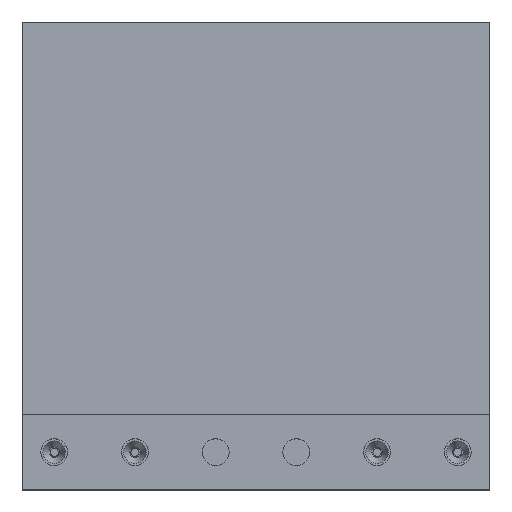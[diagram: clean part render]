
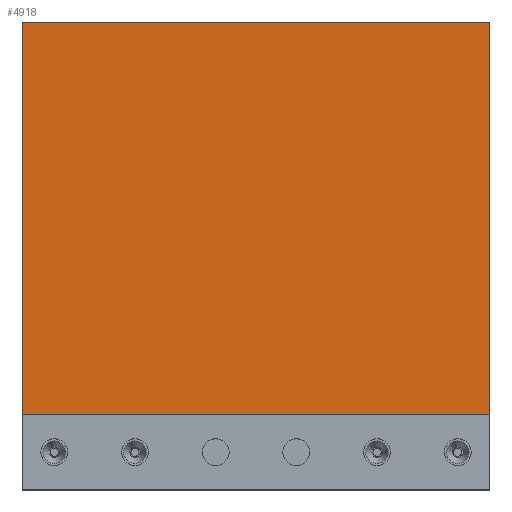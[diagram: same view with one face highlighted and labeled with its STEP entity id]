
A CAD part, top view. The second image highlights one B-rep face of the part: STEP entity #4918.
In plain terms, the highlighted planar face has unit normal (0, 0, 1).
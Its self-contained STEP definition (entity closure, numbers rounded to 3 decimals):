
#572=FACE_OUTER_BOUND('',#886,.T.);
#886=EDGE_LOOP('',(#4460,#4461,#4462,#4463));
#1403=LINE('',#8156,#1927);
#1408=LINE('',#8166,#1932);
#1409=LINE('',#8169,#1933);
#1410=LINE('',#8170,#1934);
#1927=VECTOR('',#6727,10.);
#1932=VECTOR('',#6738,10.);
#1933=VECTOR('',#6741,10.);
#1934=VECTOR('',#6742,10.);
#2405=VERTEX_POINT('',#8153);
#2406=VERTEX_POINT('',#8155);
#2408=VERTEX_POINT('',#8164);
#2409=VERTEX_POINT('',#8168);
#3089=EDGE_CURVE('',#2405,#2406,#1403,.T.);
#3094=EDGE_CURVE('',#2408,#2405,#1408,.T.);
#3095=EDGE_CURVE('',#2409,#2408,#1409,.T.);
#3096=EDGE_CURVE('',#2409,#2406,#1410,.T.);
#4460=ORIENTED_EDGE('',*,*,#3094,.F.);
#4461=ORIENTED_EDGE('',*,*,#3095,.F.);
#4462=ORIENTED_EDGE('',*,*,#3096,.T.);
#4463=ORIENTED_EDGE('',*,*,#3089,.F.);
#4655=PLANE('',#5366);
#4918=ADVANCED_FACE('',(#572),#4655,.T.);
#5366=AXIS2_PLACEMENT_3D('',#8167,#6739,#6740);
#6727=DIRECTION('',(0.,1.,0.));
#6738=DIRECTION('',(-1.,0.,0.));
#6739=DIRECTION('center_axis',(0.,0.,
1.));
#6740=DIRECTION('ref_axis',(0.,-1.,0.));
#6741=DIRECTION('',(0.,-1.,0.));
#6742=DIRECTION('',(-1.,0.,0.));
#8153=CARTESIAN_POINT('',(-6.,-3.,1.5));
#8155=CARTESIAN_POINT('',(-6.,70.,1.5));
#8156=CARTESIAN_POINT('',(-6.,-3.,1.5));
#8164=CARTESIAN_POINT('',(81.,-3.,1.5));
#8166=CARTESIAN_POINT('',(0.,-3.,1.5));
#8167=CARTESIAN_POINT('Origin',(0.,70.,1.5));
#8168=CARTESIAN_POINT('',(81.,70.,1.5));
#8169=CARTESIAN_POINT('',(81.,0.,1.5));
#8170=CARTESIAN_POINT('',(0.,70.,1.5));
